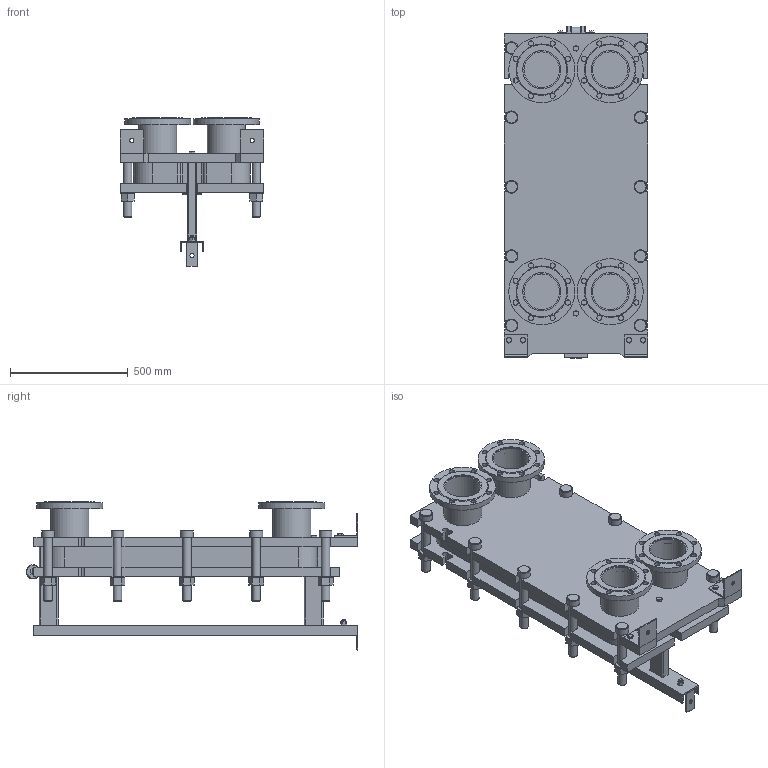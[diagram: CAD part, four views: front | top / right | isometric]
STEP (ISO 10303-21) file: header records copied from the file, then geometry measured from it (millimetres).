
FILE_DESCRIPTION(/* description */ (''),/* implementation_level */ '2;1');
FILE_NAME(/* name */ 'C:\Users\zhuro\Desktop\ENCO\TO\ЭН-041\ЭН-0,5-041-25-1.stp',/* time_stamp */ '2022-06-06T10:50:16+03:00',/* author */ ('zhuro'),/* organization */ (''),/* preprocessor_version */ 'ST-DEVELOPER v18.1',/* originating_system */ 'Autodesk Inventor 2022',/* authorisation */ '');
FILE_SCHEMA (('AUTOMOTIVE_DESIGN { 1 0 10303 214 3 1 1 }'));
Length unit declared in the file: millimetre
Products named in the file (1): ЭН-0,5-041-25-1
Bounding box: 610 x 1406.5 x 627.5 mm (x, y, z)
Volume: 123712925.3 mm3; surface area: 7370822.6 mm2
Topology: 52 solids, 52 shells, 711 faces, 1696 edges, 1094 vertices
Faces by surface type: plane 487, cylinder 177, cone 41, torus 6
Full cylindrical faces by diameter (mm): 8 x4, 10 x2, 16 x8, 18 x3, 22 x32, 36 x24, 50 x1, 54 x10, 60 x12, 151 x4, 161 x8, 280 x4
Entity records: 22667 total; most frequent: CARTESIAN_POINT 5230, DIRECTION 3644, ORIENTED_EDGE 3392, EDGE_CURVE 1696, AXIS2_PLACEMENT_3D 1272, LINE 1100, VECTOR 1100, VERTEX_POINT 1094
